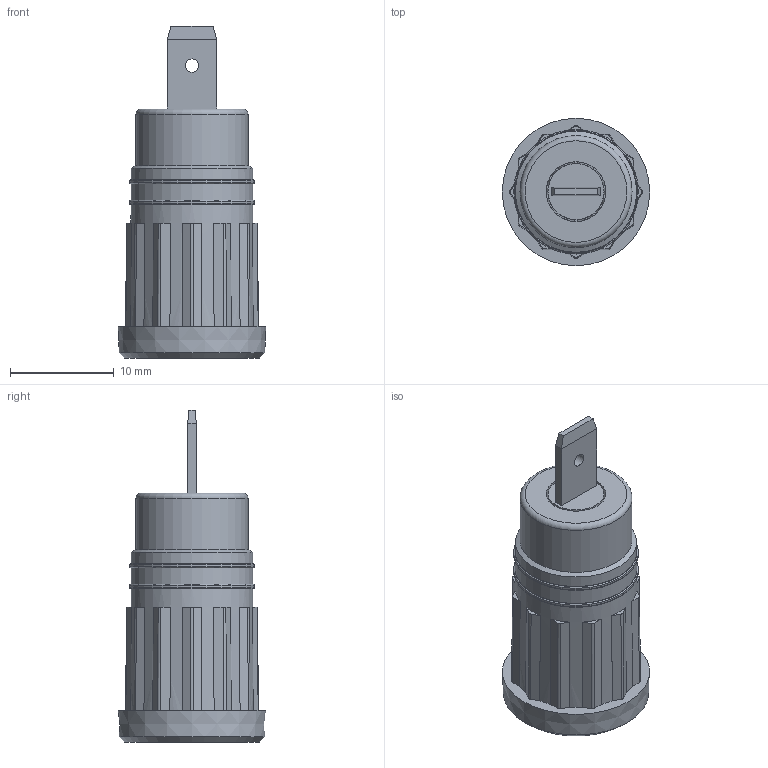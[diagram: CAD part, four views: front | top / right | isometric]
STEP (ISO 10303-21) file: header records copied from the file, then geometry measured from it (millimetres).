
FILE_DESCRIPTION (( 'STEP AP214' ), '1' );
FILE_NAME ('CT2915-8.STEP', '2017-10-11T19:34:07', ( '' ), ( '' ), 'SwSTEP 2.0', 'SolidWorks 2014', '' );
FILE_SCHEMA (( 'AUTOMOTIVE_DESIGN' ));
Length unit declared in the file: millimetre
Products named in the file (3): 440-3xx_440-309; CT2915-8; 440-310_440-310-08
Assembly tree (2 placements, depth 2):
  CT2915-8
    440-310_440-310-08
    440-3xx_440-309
Bounding box: 14.21 x 14.21 x 32 mm (x, y, z)
Volume: 1791.4 mm3; surface area: 3146.7 mm2
Topology: 2 solids, 2 shells, 245 faces, 589 edges, 375 vertices
Faces by surface type: plane 189, cone 30, bspline 12, torus 8, cylinder 6
Full cylindrical faces by diameter (mm): 1.27 x1, 4.1 x1, 5.4 x1, 10.8 x1, 12 x2
Entity records: 7092 total; most frequent: CARTESIAN_POINT 1460, DIRECTION 1128, ORIENTED_EDGE 1110, EDGE_CURVE 555, AXIS2_PLACEMENT_3D 395, VERTEX_POINT 367, VECTOR 338, LINE 338
